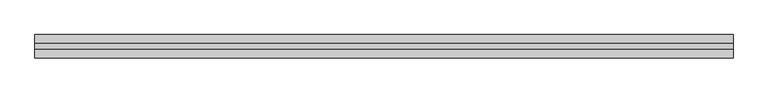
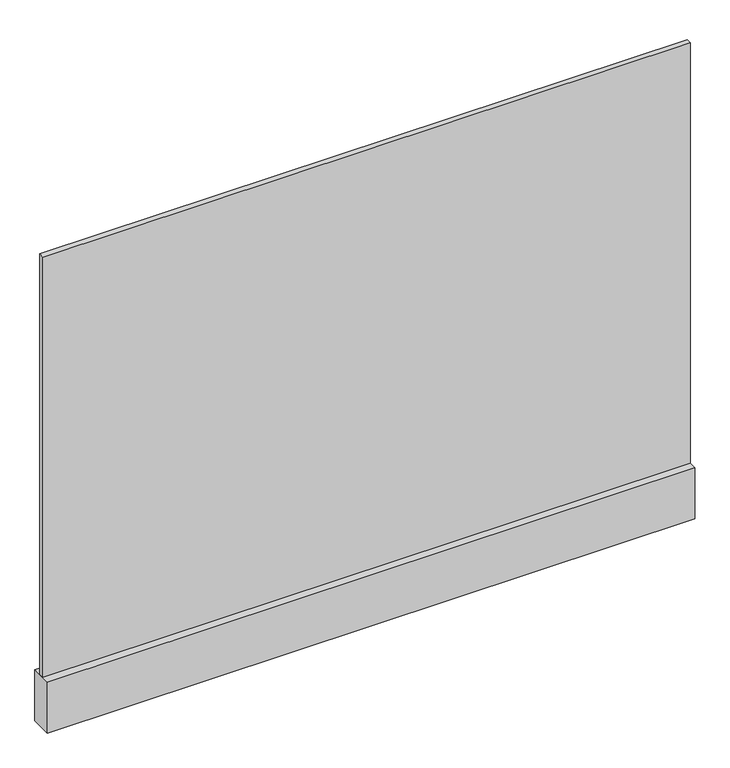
"""IFC4 building model written with IfcOpenShell, lengths in millimetres: plate geometry, r パネル FIX 下框付 : 框 H100."""

import ifcopenshell
import ifcopenshell.guid

model = None  # the IFC model being written
_history = None  # IfcOwnerHistory: only IFC2X3 demands one
_inside = {}  # id of a spatial element -> (the spatial element, [elements in it])
_under = {}  # id of a project, library or spatial element -> (it, [spatial elements below it])
_declared = {}  # id of a project -> (the project, [libraries it declares])
_typed = {}  # id of a type object -> (the type object, [elements of that type])
_made_of = {}  # id of a material, layer set ... -> (it, [elements and type objects made of it])


def new_model(schema):
    """Start an empty IFC model of exactly this schema.

    Asked for "IFC4X3", IfcOpenShell would pick the latest addendum, in which some entities
    have other attributes; the version numbers below select the first issue.
    IFC2X3 requires an IfcOwnerHistory on every rooted entity: one is made here for all.
    """
    global model, _history
    if schema == "IFC4X3":
        model = ifcopenshell.file(schema_version=(4, 3, 0, 0))
    else:
        model = ifcopenshell.file(schema=schema)
    _inside.clear()
    _under.clear()
    _declared.clear()
    _typed.clear()
    _made_of.clear()
    _history = None
    if model.schema == "IFC2X3":
        org = make("IfcOrganization", Name="unknown")
        user = make(
            "IfcPersonAndOrganization",
            ThePerson=make("IfcPerson", FamilyName="unknown"),
            TheOrganization=org,
        )
        app = make(
            "IfcApplication",
            ApplicationDeveloper=org,
            Version="unknown",
            ApplicationFullName="unknown",
            ApplicationIdentifier="unknown",
        )
        _history = make(
            "IfcOwnerHistory",
            OwningUser=user,
            OwningApplication=app,
            ChangeAction="ADDED",
            CreationDate=0,
        )
    return model


def make(cls, **values):
    """One entity of the class cls with the attributes given. An attribute that is None is left unset."""
    return model.create_entity(
        cls, **{name: value for name, value in values.items() if value is not None}
    )


def rooted(cls, **values):
    """An entity with a GlobalId (a new one), such as an element, a storey or a relation."""
    return make(cls, GlobalId=ifcopenshell.guid.new(), OwnerHistory=_history, **values)


def si_unit(unit_type, name, prefix=None):
    """IfcSIUnit, for example si_unit("LENGTHUNIT", "METRE", prefix="MILLI")."""
    return make("IfcSIUnit", UnitType=unit_type, Prefix=prefix, Name=name)


def assignment(units):
    """IfcUnitAssignment: the units of a project."""
    return None if units is None else make("IfcUnitAssignment", Units=units)


def point(xyz):
    """IfcCartesianPoint."""
    return None if xyz is None else make("IfcCartesianPoint", Coordinates=xyz)


def direction(xyz):
    """IfcDirection."""
    return None if xyz is None else make("IfcDirection", DirectionRatios=xyz)


def frame(location, z_axis=None, x_axis=None):
    """IfcAxis2Placement3D, a coordinate frame: its origin and axes. An axis left out is left unset."""
    return make(
        "IfcAxis2Placement3D",
        Location=point(location),
        Axis=direction(z_axis),
        RefDirection=direction(x_axis),
    )


def origin():
    """The frame at (0, 0, 0) with its axes left unset."""
    return frame((0.0, 0.0, 0.0))


def origin_with_axes():
    """The frame at (0, 0, 0) with the z axis (0, 0, 1) and the x axis (1, 0, 0) written out."""
    return frame((0.0, 0.0, 0.0), z_axis=(0.0, 0.0, 1.0), x_axis=(1.0, 0.0, 0.0))


def place(relative_to, where):
    """IfcLocalPlacement: puts the frame where relative to a parent placement (None: the world)."""
    return make(
        "IfcLocalPlacement", PlacementRelTo=relative_to, RelativePlacement=where
    )


def context(
    kind, dimensions, precision=None, world=None, true_north=None, identifier=None
):
    """IfcGeometricRepresentationContext, for example the 3D "Model" context."""
    return make(
        "IfcGeometricRepresentationContext",
        ContextIdentifier=identifier,
        ContextType=kind,
        CoordinateSpaceDimension=dimensions,
        Precision=precision,
        WorldCoordinateSystem=world,
        TrueNorth=true_north,
    )


def project(units=None, contexts=None):
    """IfcProject with its units and contexts."""
    return rooted(
        "IfcProject",
        Name="project",
        RepresentationContexts=contexts,
        UnitsInContext=assignment(units),
    )


def spatial(cls, under=None, at=None, **own):
    """A site, building, storey or space (cls), placed at a placement, below another one or the project."""
    s = rooted(cls, ObjectPlacement=at, **own)
    if under is not None:
        _under.setdefault(under.id(), (under, []))[1].append(s)
    return s


def polyline(points):
    """IfcPolyline through the points."""
    return make("IfcPolyline", Points=[point(p) for p in points])


def outline(outer, holes=None, kind="AREA"):
    """IfcArbitraryClosedProfileDef: a profile drawn as a closed curve; with holes, ...WithVoids."""
    if holes is None:
        return make("IfcArbitraryClosedProfileDef", ProfileType=kind, OuterCurve=outer)
    return make(
        "IfcArbitraryProfileDefWithVoids",
        ProfileType=kind,
        OuterCurve=outer,
        InnerCurves=holes,
    )


def extrude(swept, where, along, depth):
    """IfcExtrudedAreaSolid: the profile swept, set in the frame where, extruded along a direction by depth."""
    return make(
        "IfcExtrudedAreaSolid",
        SweptArea=swept,
        Position=where,
        ExtrudedDirection=direction(along),
        Depth=depth,
    )


def shape(context_of_items, identifier, shape_type, items):
    """IfcShapeRepresentation: the items that make up one representation, for example the "Body"."""
    return make(
        "IfcShapeRepresentation",
        ContextOfItems=context_of_items,
        RepresentationIdentifier=identifier,
        RepresentationType=shape_type,
        Items=items,
    )


def source(mapping_origin, context_of_items, identifier, shape_type, items):
    """IfcRepresentationMap: a shape defined once, which mapped items show again and again."""
    return make(
        "IfcRepresentationMap",
        MappingOrigin=mapping_origin,
        MappedRepresentation=shape(context_of_items, identifier, shape_type, items),
    )


def transform(
    local_origin,
    x_axis=None,
    y_axis=None,
    z_axis=None,
    scale=None,
    scale2=None,
    scale3=None,
    uniform=True,
):
    """IfcCartesianTransformationOperator3D, or its non-uniform kind. x_axis, y_axis, z_axis: its Axis1, 2, 3."""
    if uniform:
        return make(
            "IfcCartesianTransformationOperator3D",
            Axis1=direction(x_axis),
            Axis2=direction(y_axis),
            LocalOrigin=point(local_origin),
            Scale=scale,
            Axis3=direction(z_axis),
        )
    return make(
        "IfcCartesianTransformationOperator3DnonUniform",
        Axis1=direction(x_axis),
        Axis2=direction(y_axis),
        LocalOrigin=point(local_origin),
        Scale=scale,
        Axis3=direction(z_axis),
        Scale2=scale2,
        Scale3=scale3,
    )


def mapped(mapping_source, mapping_target):
    """IfcMappedItem: shows the shape of a source again, moved by a transform."""
    return make(
        "IfcMappedItem", MappingSource=mapping_source, MappingTarget=mapping_target
    )


def made_of(thing, what):
    """Note that an element or type object is made of a material, layer set ...; save() writes the relation."""
    if what is not None:
        _made_of.setdefault(what.id(), (what, []))[1].append(thing)
    return thing


def element(
    cls,
    number,
    at=None,
    inside=None,
    cuts=None,
    type_object=None,
    material=None,
    context=None,
    identifier="Body",
    shape_type=None,
    held_by="IfcProductDefinitionShape",
    body=None,
    shapes=None,
    **own,
):
    """One element of the class cls, such as IfcWall. Its Tag is "e" and its number.

    at: its placement. inside: the storey or other place that contains it. cuts: it is an
    opening in that element (IfcRelVoidsElement). A single representation is given by context,
    identifier, shape_type and body (its items); several are given by shapes. held_by: the class
    of the entity that holds the representations. save() writes the other relations.
    """
    e = rooted(cls, Tag="e%d" % number, ObjectPlacement=at, **own)
    if body is not None:
        shapes = [shape(context, identifier, shape_type, body)]
    if shapes is not None:
        e.Representation = make(held_by, Representations=shapes)
    if inside is not None:
        _inside.setdefault(inside.id(), (inside, []))[1].append(e)
    if cuts is not None:
        rooted(
            "IfcRelVoidsElement", RelatingBuildingElement=cuts, RelatedOpeningElement=e
        )
    if type_object is not None:
        _typed.setdefault(type_object.id(), (type_object, []))[1].append(e)
    return made_of(e, material)


def aggregate(whole, parts):
    """IfcRelAggregates: a whole, such as a stair, and the parts it consists of."""
    return rooted("IfcRelAggregates", RelatingObject=whole, RelatedObjects=parts)


def save(model, path):
    """Write the relations noted so far, then the file.

    IfcRelAggregates (storeys below a building ...), IfcRelContainedInSpatialStructure (elements
    in a storey), IfcRelDefinesByType, IfcRelAssociatesMaterial and IfcRelDeclares: one each for
    every whole, place, type object, material and project.
    """
    for whole, parts in _under.values():
        aggregate(whole, parts)
    for where, things in _inside.values():
        rooted(
            "IfcRelContainedInSpatialStructure",
            RelatedElements=things,
            RelatingStructure=where,
        )
    for kind, things in _typed.values():
        rooted("IfcRelDefinesByType", RelatedObjects=things, RelatingType=kind)
    for what, things in _made_of.values():
        rooted("IfcRelAssociatesMaterial", RelatedObjects=things, RelatingMaterial=what)
    for by, libraries in _declared.values():
        rooted("IfcRelDeclares", RelatingContext=by, RelatedDefinitions=libraries)
    model.write(path)


def plate_b89069fe(model_context):
    return source(origin(), model_context, "Body", "SweptSolid", [
        extrude(outline(polyline([(-600.9309555, -5.0), (-600.9309555, 5.0), (600.9309555, 5.0), (600.9309555, -5.0), (-600.9309555, -5.0)])), frame((0.0, 0.0, 100.0), z_axis=(0.0, 0.0, 1.0), x_axis=(1.0, 0.0, 0.0)), (0.0, 0.0, 1.0), 825.0),
        extrude(outline(polyline([(-600.9309555, -20.0), (-600.9309555, 20.0), (600.9309555, 20.0), (600.9309555, -20.0), (-600.9309555, -20.0)])), origin_with_axes(), (0.0, 0.0, 1.0), 100.0),
    ])


if __name__ == "__main__":
    model = new_model("IFC4")
    model_context = context("Model", 3, world=origin())
    ifc_project = project(units=[si_unit("LENGTHUNIT", "METRE", prefix="MILLI")], contexts=[model_context])
    site = spatial("IfcSite", under=ifc_project)
    building = spatial("IfcBuilding", under=site)
    placement = place(None, origin())
    plate_shape = plate_b89069fe(model_context)
    element("IfcPlate", 1, ObjectType="r パネル FIX 下框付 : 框 H100", at=placement, inside=building, context=model_context, shape_type="MappedRepresentation", body=[
        mapped(plate_shape, transform((0.0, 0.0, 0.0), x_axis=(1.0, 0.0, 0.0), y_axis=(0.0, 1.0, 0.0), z_axis=(0.0, 0.0, 1.0))),
    ])
    save(model, "model.ifc")
